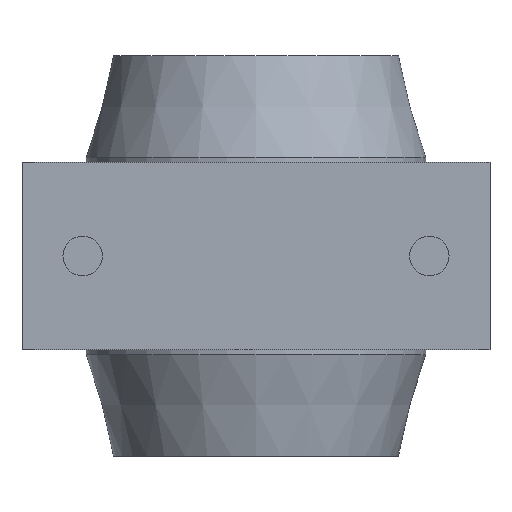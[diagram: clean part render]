
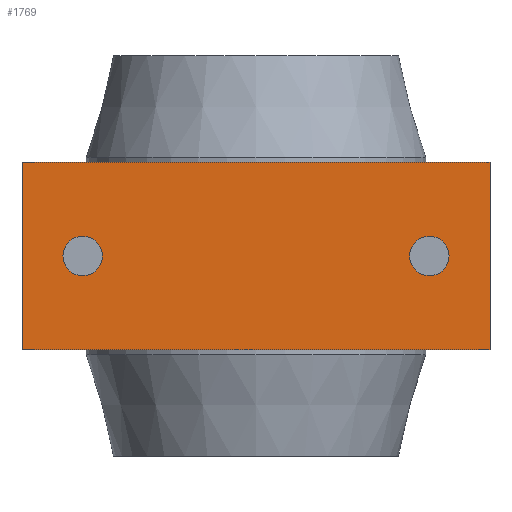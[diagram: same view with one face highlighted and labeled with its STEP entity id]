
A CAD part, front view. The second image highlights one B-rep face of the part: STEP entity #1769.
In plain terms, the highlighted planar face has unit normal (0, -1, 0).
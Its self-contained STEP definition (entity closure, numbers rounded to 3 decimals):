
#110=FACE_BOUND('',#316,.T.);
#111=FACE_BOUND('',#317,.T.);
#145=PLANE('',#2037);
#207=FACE_OUTER_BOUND('',#315,.T.);
#315=EDGE_LOOP('',(#1272,#1273,#1274,#1275));
#316=EDGE_LOOP('',(#1276,#1277));
#317=EDGE_LOOP('',(#1278,#1279));
#442=LINE('',#2936,#533);
#449=LINE('',#2952,#540);
#458=LINE('',#2987,#549);
#459=LINE('',#2989,#550);
#533=VECTOR('',#2306,10.);
#540=VECTOR('',#2319,10.);
#549=VECTOR('',#2362,10.);
#550=VECTOR('',#2365,10.);
#616=CIRCLE('',#1984,5.053);
#617=CIRCLE('',#1985,5.053);
#620=CIRCLE('',#1990,5.053);
#621=CIRCLE('',#1991,5.053);
#731=VERTEX_POINT('',#2865);
#732=VERTEX_POINT('',#2866);
#735=VERTEX_POINT('',#2876);
#736=VERTEX_POINT('',#2877);
#758=VERTEX_POINT('',#2933);
#759=VERTEX_POINT('',#2935);
#764=VERTEX_POINT('',#2949);
#765=VERTEX_POINT('',#2951);
#905=EDGE_CURVE('',#731,#732,#616,.T.);
#906=EDGE_CURVE('',#732,#731,#617,.T.);
#910=EDGE_CURVE('',#735,#736,#620,.T.);
#911=EDGE_CURVE('',#736,#735,#621,.T.);
#938=EDGE_CURVE('',#759,#758,#442,.T.);
#946=EDGE_CURVE('',#765,#764,#449,.T.);
#965=EDGE_CURVE('',#758,#765,#458,.T.);
#966=EDGE_CURVE('',#764,#759,#459,.T.);
#1272=ORIENTED_EDGE('',*,*,#965,.T.);
#1273=ORIENTED_EDGE('',*,*,#946,.T.);
#1274=ORIENTED_EDGE('',*,*,#966,.T.);
#1275=ORIENTED_EDGE('',*,*,#938,.T.);
#1276=ORIENTED_EDGE('',*,*,#905,.T.);
#1277=ORIENTED_EDGE('',*,*,#906,.T.);
#1278=ORIENTED_EDGE('',*,*,#910,.T.);
#1279=ORIENTED_EDGE('',*,*,#911,.T.);
#1769=ADVANCED_FACE('',(#207,#110,#111),#145,.F.);
#1984=AXIS2_PLACEMENT_3D('',#2867,#2232,#2233);
#1985=AXIS2_PLACEMENT_3D('',#2868,#2234,#2235);
#1990=AXIS2_PLACEMENT_3D('',#2878,#2245,#2246);
#1991=AXIS2_PLACEMENT_3D('',#2879,#2247,#2248);
#2037=AXIS2_PLACEMENT_3D('',#2990,#2366,#2367);
#2232=DIRECTION('center_axis',(0.,1.,0.));
#2233=DIRECTION('ref_axis',(-1.,0.,0.));
#2234=DIRECTION('center_axis',(0.,1.,0.));
#2235=DIRECTION('ref_axis',(-1.,0.,0.));
#2245=DIRECTION('center_axis',(0.,1.,0.));
#2246=DIRECTION('ref_axis',(-1.,0.,0.));
#2247=DIRECTION('center_axis',(0.,1.,0.));
#2248=DIRECTION('ref_axis',(-1.,0.,0.));
#2306=DIRECTION('',(1.,0.,0.));
#2319=DIRECTION('',(-1.,0.,0.));
#2362=DIRECTION('',(0.,0.,1.));
#2365=DIRECTION('',(0.,0.,-1.));
#2366=DIRECTION('center_axis',(0.,1.,0.));
#2367=DIRECTION('ref_axis',(0.,0.,1.));
#2865=CARTESIAN_POINT('',(-49.503,-49.2,0.));
#2866=CARTESIAN_POINT('',(-39.397,-49.2,0.));
#2867=CARTESIAN_POINT('Origin',(-44.45,-49.2,0.));
#2868=CARTESIAN_POINT('Origin',(-44.45,-49.2,0.));
#2876=CARTESIAN_POINT('',(39.397,-49.2,0.));
#2877=CARTESIAN_POINT('',(49.503,-49.2,0.));
#2878=CARTESIAN_POINT('Origin',(44.45,-49.2,0.));
#2879=CARTESIAN_POINT('Origin',(44.45,-49.2,0.));
#2933=CARTESIAN_POINT('',(60.,-49.2,-24.));
#2935=CARTESIAN_POINT('',(-60.,-49.2,-24.));
#2936=CARTESIAN_POINT('',(30.,-49.2,-24.));
#2949=CARTESIAN_POINT('',(-60.,-49.2,24.));
#2951=CARTESIAN_POINT('',(60.,-49.2,24.));
#2952=CARTESIAN_POINT('',(-30.,-49.2,24.));
#2987=CARTESIAN_POINT('',(60.,-49.2,12.));
#2989=CARTESIAN_POINT('',(-60.,-49.2,-12.));
#2990=CARTESIAN_POINT('Origin',(0.,-49.2,0.));
